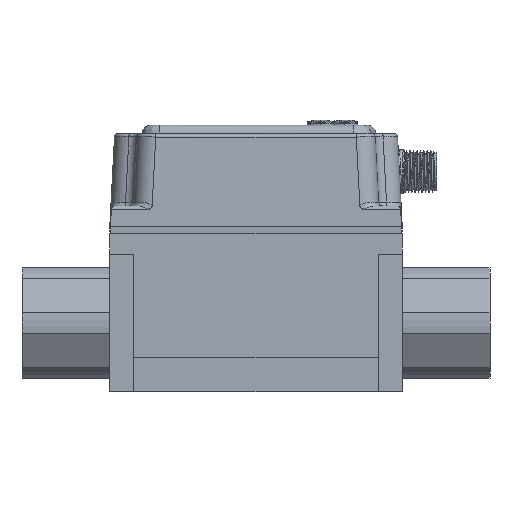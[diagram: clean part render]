
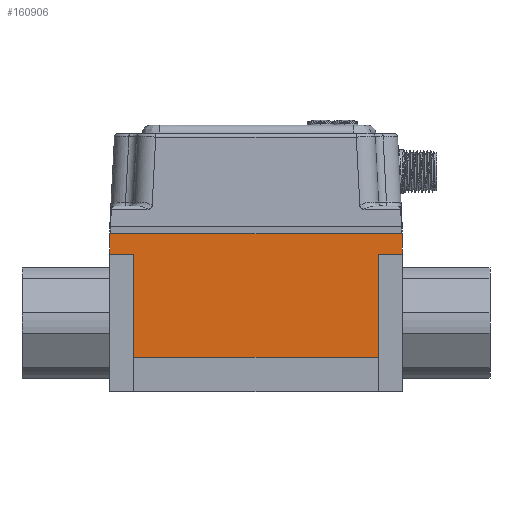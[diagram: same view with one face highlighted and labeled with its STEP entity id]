
A CAD part, front view. The second image highlights one B-rep face of the part: STEP entity #160906.
In plain terms, the highlighted planar face has unit normal (0, -1, 0).
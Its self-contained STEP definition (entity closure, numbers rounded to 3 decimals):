
#772 = CARTESIAN_POINT ( 'NONE',  ( -41., -21.5, -4.4 ) ) ;
#1125 = EDGE_CURVE ( 'NONE', #74012, #105042, #142038, .T. ) ;
#3252 = LINE ( 'NONE', #124624, #81799 ) ;
#6159 = EDGE_CURVE ( 'NONE', #103449, #6942, #149075, .T. ) ;
#6942 = VERTEX_POINT ( 'NONE', #99280 ) ;
#8824 = ORIENTED_EDGE ( 'NONE', *, *, #92479, .F. ) ;
#15746 = ORIENTED_EDGE ( 'NONE', *, *, #92253, .T. ) ;
#24263 = VERTEX_POINT ( 'NONE', #152254 ) ;
#25756 = LINE ( 'NONE', #162869, #88639 ) ;
#31420 = ORIENTED_EDGE ( 'NONE', *, *, #102749, .T. ) ;
#33128 = VECTOR ( 'NONE', #86642, 1000. ) ;
#37271 = CARTESIAN_POINT ( 'NONE',  ( -41., -21.5, -34.4 ) ) ;
#38721 = VECTOR ( 'NONE', #147335, 1000. ) ;
#40573 = DIRECTION ( 'NONE',  ( 0., 0., -1. ) ) ;
#54499 = CARTESIAN_POINT ( 'NONE',  ( 30., -21.5, -34.4 ) ) ;
#54673 = VECTOR ( 'NONE', #57890, 1000. ) ;
#57235 = VERTEX_POINT ( 'NONE', #90089 ) ;
#57890 = DIRECTION ( 'NONE',  ( -1., 0., 0. ) ) ;
#71218 = CARTESIAN_POINT ( 'NONE',  ( -48., -21.5, -4.4 ) ) ;
#74012 = VERTEX_POINT ( 'NONE', #134885 ) ;
#74379 = EDGE_CURVE ( 'NONE', #57235, #105042, #161678, .T. ) ;
#79322 = ORIENTED_EDGE ( 'NONE', *, *, #155413, .T. ) ;
#81799 = VECTOR ( 'NONE', #166766, 1000. ) ;
#84170 = DIRECTION ( 'NONE',  ( 1., 0., 0. ) ) ;
#86642 = DIRECTION ( 'NONE',  ( -1., 0., 0. ) ) ;
#86690 = CARTESIAN_POINT ( 'NONE',  ( -48., -21.5, 1.6 ) ) ;
#88639 = VECTOR ( 'NONE', #149695, 1000. ) ;
#90089 = CARTESIAN_POINT ( 'NONE',  ( -41., -21.5, -4.4 ) ) ;
#92253 = EDGE_CURVE ( 'NONE', #167606, #6942, #3252, .T. ) ;
#92479 = EDGE_CURVE ( 'NONE', #155570, #57235, #95919, .T. ) ;
#95919 = LINE ( 'NONE', #137187, #115590 ) ;
#98516 = ORIENTED_EDGE ( 'NONE', *, *, #1125, .T. ) ;
#99280 = CARTESIAN_POINT ( 'NONE',  ( 30., -21.5, -4.4 ) ) ;
#102749 = EDGE_CURVE ( 'NONE', #155570, #167606, #25756, .T. ) ;
#103274 = LINE ( 'NONE', #142869, #33128 ) ;
#103449 = VERTEX_POINT ( 'NONE', #164192 ) ;
#105042 = VERTEX_POINT ( 'NONE', #71218 ) ;
#114892 = PLANE ( 'NONE',  #157249 ) ;
#115590 = VECTOR ( 'NONE', #146885, 1000. ) ;
#122954 = ORIENTED_EDGE ( 'NONE', *, *, #6159, .F. ) ;
#123505 = VECTOR ( 'NONE', #40573, 1000. ) ;
#123909 = ORIENTED_EDGE ( 'NONE', *, *, #74379, .F. ) ;
#124624 = CARTESIAN_POINT ( 'NONE',  ( 30., -21.5, -34.4 ) ) ;
#127127 = DIRECTION ( 'NONE',  ( 0., 0., -1. ) ) ;
#133268 = CARTESIAN_POINT ( 'NONE',  ( 37., -21.5, -4.4 ) ) ;
#134885 = CARTESIAN_POINT ( 'NONE',  ( -48., -21.5, 1.6 ) ) ;
#137187 = CARTESIAN_POINT ( 'NONE',  ( -41., -21.5, -34.4 ) ) ;
#141266 = FACE_OUTER_BOUND ( 'NONE', #172851, .T. ) ;
#142038 = LINE ( 'NONE', #86690, #160184 ) ;
#142869 = CARTESIAN_POINT ( 'NONE',  ( 37., -21.5, 1.6 ) ) ;
#146132 = CARTESIAN_POINT ( 'NONE',  ( 37., -21.5, 1.6 ) ) ;
#146885 = DIRECTION ( 'NONE',  ( 0., 0., 1. ) ) ;
#147335 = DIRECTION ( 'NONE',  ( -1., 0., 0. ) ) ;
#149075 = LINE ( 'NONE', #133268, #38721 ) ;
#149695 = DIRECTION ( 'NONE',  ( 1., 0., 0. ) ) ;
#150979 = DIRECTION ( 'NONE',  ( 0., 1., 0. ) ) ;
#152254 = CARTESIAN_POINT ( 'NONE',  ( 37., -21.5, 1.6 ) ) ;
#155413 = EDGE_CURVE ( 'NONE', #24263, #74012, #103274, .T. ) ;
#155570 = VERTEX_POINT ( 'NONE', #37271 ) ;
#157249 = AXIS2_PLACEMENT_3D ( 'NONE', #168494, #150979, #84170 ) ;
#159285 = EDGE_CURVE ( 'NONE', #24263, #103449, #170766, .T. ) ;
#160184 = VECTOR ( 'NONE', #127127, 1000. ) ;
#160906 = ADVANCED_FACE ( 'NONE', ( #141266 ), #114892, .F. ) ;
#161678 = LINE ( 'NONE', #772, #54673 ) ;
#162869 = CARTESIAN_POINT ( 'NONE',  ( -41., -21.5, -34.4 ) ) ;
#164192 = CARTESIAN_POINT ( 'NONE',  ( 37., -21.5, -4.4 ) ) ;
#166766 = DIRECTION ( 'NONE',  ( 0., 0., 1. ) ) ;
#167606 = VERTEX_POINT ( 'NONE', #54499 ) ;
#168494 = CARTESIAN_POINT ( 'NONE',  ( 19., -21.5, -24. ) ) ;
#168521 = ORIENTED_EDGE ( 'NONE', *, *, #159285, .F. ) ;
#170766 = LINE ( 'NONE', #146132, #123505 ) ;
#172851 = EDGE_LOOP ( 'NONE', ( #31420, #15746, #122954, #168521, #79322, #98516, #123909, #8824 ) ) ;
